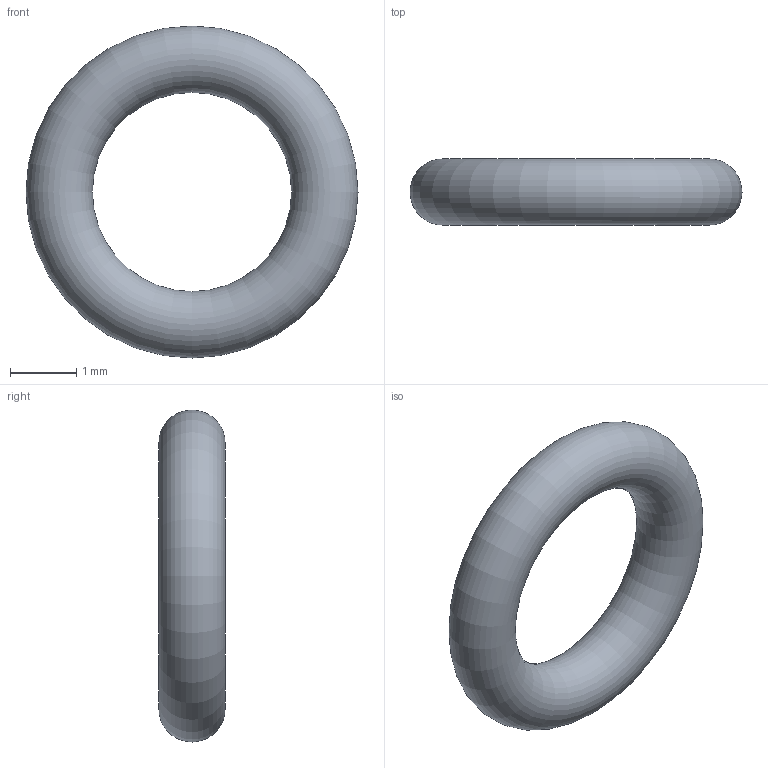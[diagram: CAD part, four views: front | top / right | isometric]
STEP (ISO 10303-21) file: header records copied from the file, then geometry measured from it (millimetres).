
FILE_DESCRIPTION( ( 'STEP AP203' ), '1' );
FILE_NAME( 'C:/Temp/Ganter_Step_05_03_2020/data/3_5/or638/O-Ring OR638-3.00-1.00-70.stp', '2020-03-12T13:44:15', ( 'License CC BY-ND 4.0' ), ( 'CADENAS' ), ' ', 'PARTsolutions', ' ' );
FILE_SCHEMA( ( 'CONFIG_CONTROL_DESIGN' ) );
Length unit declared in the file: millimetre
Products named in the file (1): _O-Ring OR638-3.00-1.00-70
Bounding box: 5 x 1 x 5 mm (x, y, z)
Volume: 9.9 mm3; surface area: 39.5 mm2
Topology: 1 solids, 1 shells, 1 faces, 2 edges, 1 vertices
Faces by surface type: torus 1
Entity records: 62 total; most frequent: CC_DESIGN_PERSON_AND_ORGANIZATION_ASSIGNMENT 5, PERSON_AND_ORGANIZATION_ROLE 4, DIRECTION 4, CARTESIAN_POINT 3, DATE_TIME_ROLE 2, CC_DESIGN_DATE_AND_TIME_ASSIGNMENT 2, AXIS2_PLACEMENT_3D 2, DIMENSIONAL_EXPONENTS 2
